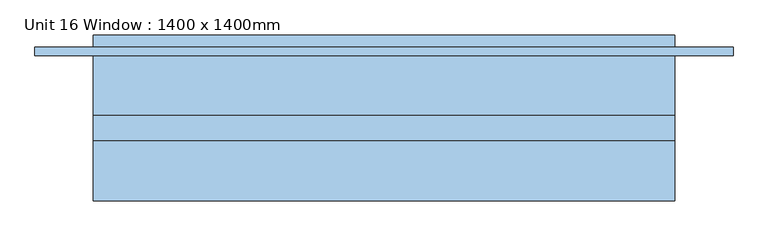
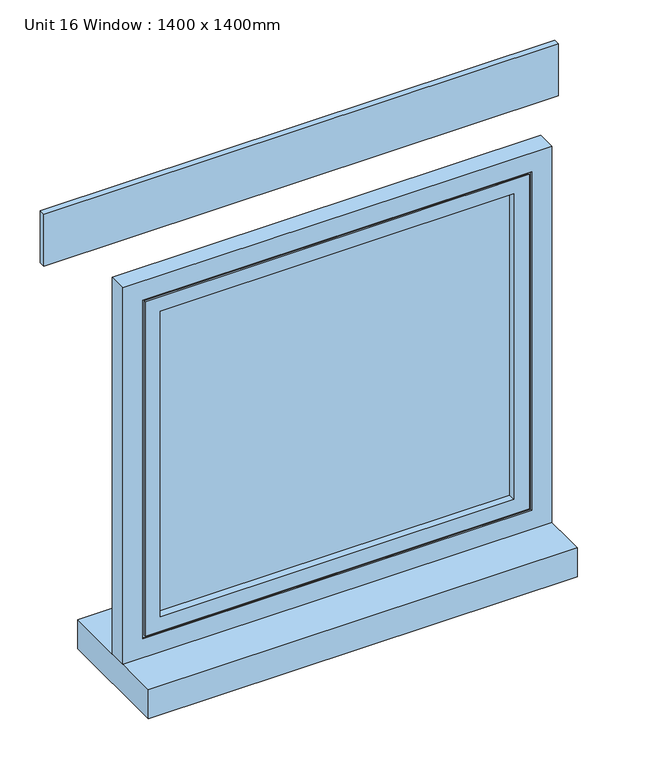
"""IFC4 building model written with IfcOpenShell, lengths in millimetres: window geometry, Unit 16 Window : 1400 x 1400mm."""

from ifc_helpers import new_model, si_unit, frame, origin, place, context, project, spatial, polyline, outline, extrude, faceted_brep, source, transform, mapped, element, save


def unit_16_window_1400_x_1400mm_be93e3aa(model_context):
    return source(origin(), model_context, "Body", "SolidModel", [
        faceted_brep([(-627.4540566, 30.0, 2127.4540566), (-627.4540566, 25.0, 2127.4540566), (627.4540566, 25.0, 2127.4540566), (627.4540566, 30.0, 2127.4540566), (-577.4540566, 5.0, 2077.4540566), (-577.4540566, 30.0, 2077.4540566), (577.4540566, 30.0, 2077.4540566), (577.4540566, 5.0, 2077.4540566), (-582.4540566, -5.0, 2082.4540566), (-582.4540566, 5.0, 2082.4540566), (582.4540566, 5.0, 2082.4540566), (582.4540566, -5.0, 2082.4540566), (-577.4540566, -30.0, 2077.4540566), (-577.4540566, -5.0, 2077.4540566), (577.4540566, -5.0, 2077.4540566), (577.4540566, -30.0, 2077.4540566), (-627.4540566, -25.0, 2127.4540566), (-627.4540566, -30.0, 2127.4540566), (627.4540566, -30.0, 2127.4540566), (627.4540566, -25.0, 2127.4540566), (-634.8200453, 25.0, 2134.8200453), (-634.8200453, -25.0, 2134.8200453), (634.8200453, -25.0, 2134.8200453), (634.8200453, 25.0, 2134.8200453), (627.4540566, 25.0, 972.5459434), (627.4540566, 30.0, 972.5459434), (577.4540566, 30.0, 1022.5459434), (577.4540566, 5.0, 1022.5459434), (582.4540566, 5.0, 1017.5459434), (582.4540566, -5.0, 1017.5459434), (577.4540566, -5.0, 1022.5459434), (577.4540566, -30.0, 1022.5459434), (627.4540566, -30.0, 972.5459434), (627.4540566, -25.0, 972.5459434), (634.8200453, -25.0, 965.1799547), (634.8200453, 25.0, 965.1799547), (-627.4540566, 25.0, 972.5459434), (-627.4540566, 30.0, 972.5459434), (-577.4540566, 30.0, 1022.5459434), (-577.4540566, 5.0, 1022.5459434), (-582.4540566, 5.0, 1017.5459434), (-582.4540566, -5.0, 1017.5459434), (-577.4540566, -5.0, 1022.5459434), (-577.4540566, -30.0, 1022.5459434), (-627.4540566, -30.0, 972.5459434), (-627.4540566, -25.0, 972.5459434), (-634.8200453, -25.0, 965.1799547), (-634.8200453, 25.0, 965.1799547)], [[[0, 1, 2, 3]], [[4, 5, 6, 7]], [[8, 9, 10, 11]], [[12, 13, 14, 15]], [[16, 17, 18, 19]], [[20, 21, 22, 23]], [[3, 2, 24, 25]], [[7, 6, 26, 27]], [[11, 10, 28, 29]], [[15, 14, 30, 31]], [[19, 18, 32, 33]], [[23, 22, 34, 35]], [[25, 24, 36, 37]], [[27, 26, 38, 39]], [[29, 28, 40, 41]], [[31, 30, 42, 43]], [[33, 32, 44, 45]], [[35, 34, 46, 47]], [[37, 36, 1, 0]], [[3, 25, 37, 0], [5, 38, 26, 6]], [[39, 38, 5, 4]], [[9, 40, 28, 10], [7, 27, 39, 4]], [[41, 40, 9, 8]], [[11, 29, 41, 8], [13, 42, 30, 14]], [[43, 42, 13, 12]], [[17, 44, 32, 18], [15, 31, 43, 12]], [[45, 44, 17, 16]], [[21, 46, 34, 22], [19, 33, 45, 16]], [[47, 46, 21, 20]], [[23, 35, 47, 20], [1, 36, 24, 2]]]),
        extrude(outline(polyline([(2200.0, -700.0), (900.0, -700.0), (900.0, 700.0), (2200.0, 700.0), (2200.0, -700.0)]), holes=[polyline([(2134.8200453, 634.8200453), (965.1799547, 634.8200453), (965.1799547, -634.8200453), (2134.8200453, -634.8200453), (2134.8200453, 634.8200453)])]), frame((0.0, -30.0, 0.0), z_axis=(0.0, 1.0, 0.0), x_axis=(0.0, 0.0, 1.0)), (0.0, 0.0, 1.0), 60.0),
        extrude(outline(polyline([(840.0, 175.0), (-840.0, 175.0), (-840.0, 195.0), (840.0, 195.0), (840.0, 175.0)])), frame((0.0, 0.0, 2200.0), z_axis=(0.0, 0.0, 1.0), x_axis=(1.0, 0.0, 0.0)), (0.0, 0.0, 1.0), 180.0),
        extrude(outline(polyline([(582.4540566, 5.0), (582.4540566, -5.0), (-582.4540566, -5.0), (-582.4540566, 5.0), (582.4540566, 5.0)])), frame((0.0, 0.0, 1017.5459434), z_axis=(0.0, 0.0, 1.0), x_axis=(1.0, 0.0, 0.0)), (0.0, 0.0, 1.0), 1064.9081133),
        extrude(outline(polyline([(700.0, 225.0), (700.0, -175.0), (-700.0, -175.0), (-700.0, 225.0), (700.0, 225.0)])), frame((0.0, 0.0, 800.0), z_axis=(0.0, 0.0, 1.0), x_axis=(1.0, 0.0, 0.0)), (0.0, 0.0, 1.0), 100.0),
    ])


if __name__ == "__main__":
    model = new_model("IFC4")
    model_context = context("Model", 3, world=origin())
    ifc_project = project(units=[si_unit("LENGTHUNIT", "METRE", prefix="MILLI")], contexts=[model_context])
    site = spatial("IfcSite", under=ifc_project)
    building = spatial("IfcBuilding", under=site)
    placement = place(None, origin())
    unit_16_window_1400_x_1400mm_shape = unit_16_window_1400_x_1400mm_be93e3aa(model_context)
    element("IfcWindow", 1, ObjectType="Unit 16 Window : 1400 x 1400mm", at=placement, inside=building, context=model_context, shape_type="MappedRepresentation", body=[
        mapped(unit_16_window_1400_x_1400mm_shape, transform((0.0, 0.0, 0.0), x_axis=(1.0, 0.0, 0.0), y_axis=(0.0, 1.0, 0.0), z_axis=(0.0, 0.0, 1.0))),
    ])
    save(model, "model.ifc")
